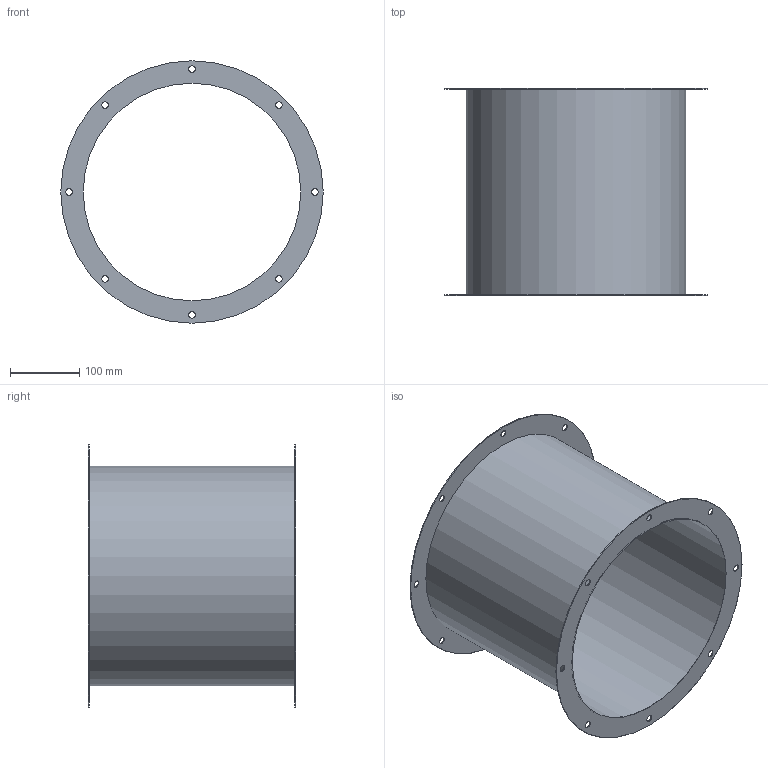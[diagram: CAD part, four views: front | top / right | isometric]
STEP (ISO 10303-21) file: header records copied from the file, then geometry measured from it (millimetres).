
FILE_DESCRIPTION(/* description */ (''),/* implementation_level */ '2;1');
FILE_NAME(/* name */ 'Z:\Output\VR_315-01404-001.stp',/* time_stamp */ '2020-05-11T11:52:50+02:00',/* author */ ('jayeshpanchal'),/* organization */ (''),/* preprocessor_version */ 'ST-DEVELOPER v17.2',/* originating_system */ 'Autodesk Inventor 2019',/* authorisation */ '');
FILE_SCHEMA (('AUTOMOTIVE_DESIGN { 1 0 10303 214 3 1 1 }'));
Length unit declared in the file: millimetre
Products named in the file (1): VR-1
Bounding box: 380 x 300 x 380 mm (x, y, z)
Volume: 456751.7 mm3; surface area: 734374.4 mm2
Topology: 1 solids, 1 shells, 24 faces, 68 edges, 48 vertices
Faces by surface type: cylinder 20, plane 4
Full cylindrical faces by diameter (mm): 9.5 x16, 315 x1, 317.5 x1, 380 x2
Entity records: 933 total; most frequent: DIRECTION 166, CARTESIAN_POINT 141, ORIENTED_EDGE 136, AXIS2_PLACEMENT_3D 73, EDGE_CURVE 68, EDGE_LOOP 60, CIRCLE 48, VERTEX_POINT 48
